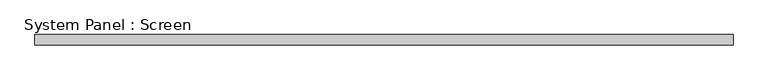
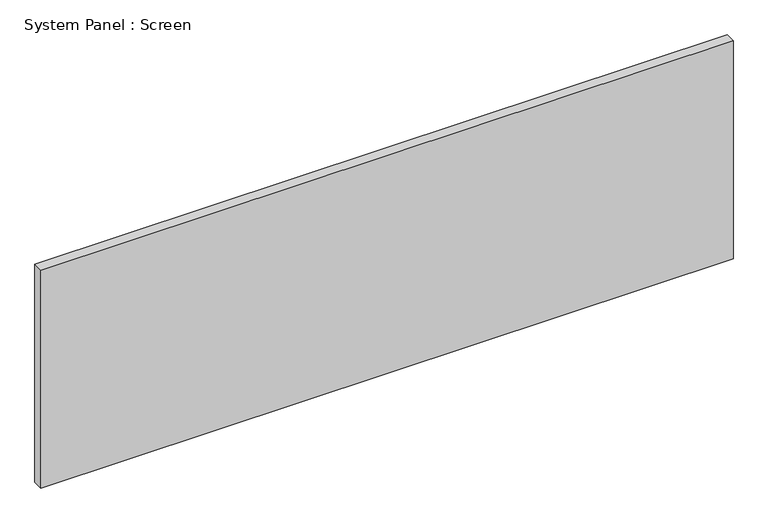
"""IFC4 building model written with IfcOpenShell, lengths in millimetres: plate geometry, System Panel : Screen."""

import ifcopenshell
import ifcopenshell.guid

model = None  # the IFC model being written
_history = None  # IfcOwnerHistory: only IFC2X3 demands one
_inside = {}  # id of a spatial element -> (the spatial element, [elements in it])
_under = {}  # id of a project, library or spatial element -> (it, [spatial elements below it])
_declared = {}  # id of a project -> (the project, [libraries it declares])
_typed = {}  # id of a type object -> (the type object, [elements of that type])
_made_of = {}  # id of a material, layer set ... -> (it, [elements and type objects made of it])


def new_model(schema):
    """Start an empty IFC model of exactly this schema.

    Asked for "IFC4X3", IfcOpenShell would pick the latest addendum, in which some entities
    have other attributes; the version numbers below select the first issue.
    IFC2X3 requires an IfcOwnerHistory on every rooted entity: one is made here for all.
    """
    global model, _history
    if schema == "IFC4X3":
        model = ifcopenshell.file(schema_version=(4, 3, 0, 0))
    else:
        model = ifcopenshell.file(schema=schema)
    _inside.clear()
    _under.clear()
    _declared.clear()
    _typed.clear()
    _made_of.clear()
    _history = None
    if model.schema == "IFC2X3":
        org = make("IfcOrganization", Name="unknown")
        user = make(
            "IfcPersonAndOrganization",
            ThePerson=make("IfcPerson", FamilyName="unknown"),
            TheOrganization=org,
        )
        app = make(
            "IfcApplication",
            ApplicationDeveloper=org,
            Version="unknown",
            ApplicationFullName="unknown",
            ApplicationIdentifier="unknown",
        )
        _history = make(
            "IfcOwnerHistory",
            OwningUser=user,
            OwningApplication=app,
            ChangeAction="ADDED",
            CreationDate=0,
        )
    return model


def make(cls, **values):
    """One entity of the class cls with the attributes given. An attribute that is None is left unset."""
    return model.create_entity(
        cls, **{name: value for name, value in values.items() if value is not None}
    )


def rooted(cls, **values):
    """An entity with a GlobalId (a new one), such as an element, a storey or a relation."""
    return make(cls, GlobalId=ifcopenshell.guid.new(), OwnerHistory=_history, **values)


def si_unit(unit_type, name, prefix=None):
    """IfcSIUnit, for example si_unit("LENGTHUNIT", "METRE", prefix="MILLI")."""
    return make("IfcSIUnit", UnitType=unit_type, Prefix=prefix, Name=name)


def assignment(units):
    """IfcUnitAssignment: the units of a project."""
    return None if units is None else make("IfcUnitAssignment", Units=units)


def point(xyz):
    """IfcCartesianPoint."""
    return None if xyz is None else make("IfcCartesianPoint", Coordinates=xyz)


def direction(xyz):
    """IfcDirection."""
    return None if xyz is None else make("IfcDirection", DirectionRatios=xyz)


def frame(location, z_axis=None, x_axis=None):
    """IfcAxis2Placement3D, a coordinate frame: its origin and axes. An axis left out is left unset."""
    return make(
        "IfcAxis2Placement3D",
        Location=point(location),
        Axis=direction(z_axis),
        RefDirection=direction(x_axis),
    )


def origin():
    """The frame at (0, 0, 0) with its axes left unset."""
    return frame((0.0, 0.0, 0.0))


def origin_with_axes():
    """The frame at (0, 0, 0) with the z axis (0, 0, 1) and the x axis (1, 0, 0) written out."""
    return frame((0.0, 0.0, 0.0), z_axis=(0.0, 0.0, 1.0), x_axis=(1.0, 0.0, 0.0))


def place(relative_to, where):
    """IfcLocalPlacement: puts the frame where relative to a parent placement (None: the world)."""
    return make(
        "IfcLocalPlacement", PlacementRelTo=relative_to, RelativePlacement=where
    )


def context(
    kind, dimensions, precision=None, world=None, true_north=None, identifier=None
):
    """IfcGeometricRepresentationContext, for example the 3D "Model" context."""
    return make(
        "IfcGeometricRepresentationContext",
        ContextIdentifier=identifier,
        ContextType=kind,
        CoordinateSpaceDimension=dimensions,
        Precision=precision,
        WorldCoordinateSystem=world,
        TrueNorth=true_north,
    )


def project(units=None, contexts=None):
    """IfcProject with its units and contexts."""
    return rooted(
        "IfcProject",
        Name="project",
        RepresentationContexts=contexts,
        UnitsInContext=assignment(units),
    )


def spatial(cls, under=None, at=None, **own):
    """A site, building, storey or space (cls), placed at a placement, below another one or the project."""
    s = rooted(cls, ObjectPlacement=at, **own)
    if under is not None:
        _under.setdefault(under.id(), (under, []))[1].append(s)
    return s


def polyline(points):
    """IfcPolyline through the points."""
    return make("IfcPolyline", Points=[point(p) for p in points])


def outline(outer, holes=None, kind="AREA"):
    """IfcArbitraryClosedProfileDef: a profile drawn as a closed curve; with holes, ...WithVoids."""
    if holes is None:
        return make("IfcArbitraryClosedProfileDef", ProfileType=kind, OuterCurve=outer)
    return make(
        "IfcArbitraryProfileDefWithVoids",
        ProfileType=kind,
        OuterCurve=outer,
        InnerCurves=holes,
    )


def extrude(swept, where, along, depth):
    """IfcExtrudedAreaSolid: the profile swept, set in the frame where, extruded along a direction by depth."""
    return make(
        "IfcExtrudedAreaSolid",
        SweptArea=swept,
        Position=where,
        ExtrudedDirection=direction(along),
        Depth=depth,
    )


def shape(context_of_items, identifier, shape_type, items):
    """IfcShapeRepresentation: the items that make up one representation, for example the "Body"."""
    return make(
        "IfcShapeRepresentation",
        ContextOfItems=context_of_items,
        RepresentationIdentifier=identifier,
        RepresentationType=shape_type,
        Items=items,
    )


def source(mapping_origin, context_of_items, identifier, shape_type, items):
    """IfcRepresentationMap: a shape defined once, which mapped items show again and again."""
    return make(
        "IfcRepresentationMap",
        MappingOrigin=mapping_origin,
        MappedRepresentation=shape(context_of_items, identifier, shape_type, items),
    )


def transform(
    local_origin,
    x_axis=None,
    y_axis=None,
    z_axis=None,
    scale=None,
    scale2=None,
    scale3=None,
    uniform=True,
):
    """IfcCartesianTransformationOperator3D, or its non-uniform kind. x_axis, y_axis, z_axis: its Axis1, 2, 3."""
    if uniform:
        return make(
            "IfcCartesianTransformationOperator3D",
            Axis1=direction(x_axis),
            Axis2=direction(y_axis),
            LocalOrigin=point(local_origin),
            Scale=scale,
            Axis3=direction(z_axis),
        )
    return make(
        "IfcCartesianTransformationOperator3DnonUniform",
        Axis1=direction(x_axis),
        Axis2=direction(y_axis),
        LocalOrigin=point(local_origin),
        Scale=scale,
        Axis3=direction(z_axis),
        Scale2=scale2,
        Scale3=scale3,
    )


def mapped(mapping_source, mapping_target):
    """IfcMappedItem: shows the shape of a source again, moved by a transform."""
    return make(
        "IfcMappedItem", MappingSource=mapping_source, MappingTarget=mapping_target
    )


def made_of(thing, what):
    """Note that an element or type object is made of a material, layer set ...; save() writes the relation."""
    if what is not None:
        _made_of.setdefault(what.id(), (what, []))[1].append(thing)
    return thing


def element(
    cls,
    number,
    at=None,
    inside=None,
    cuts=None,
    type_object=None,
    material=None,
    context=None,
    identifier="Body",
    shape_type=None,
    held_by="IfcProductDefinitionShape",
    body=None,
    shapes=None,
    **own,
):
    """One element of the class cls, such as IfcWall. Its Tag is "e" and its number.

    at: its placement. inside: the storey or other place that contains it. cuts: it is an
    opening in that element (IfcRelVoidsElement). A single representation is given by context,
    identifier, shape_type and body (its items); several are given by shapes. held_by: the class
    of the entity that holds the representations. save() writes the other relations.
    """
    e = rooted(cls, Tag="e%d" % number, ObjectPlacement=at, **own)
    if body is not None:
        shapes = [shape(context, identifier, shape_type, body)]
    if shapes is not None:
        e.Representation = make(held_by, Representations=shapes)
    if inside is not None:
        _inside.setdefault(inside.id(), (inside, []))[1].append(e)
    if cuts is not None:
        rooted(
            "IfcRelVoidsElement", RelatingBuildingElement=cuts, RelatedOpeningElement=e
        )
    if type_object is not None:
        _typed.setdefault(type_object.id(), (type_object, []))[1].append(e)
    return made_of(e, material)


def aggregate(whole, parts):
    """IfcRelAggregates: a whole, such as a stair, and the parts it consists of."""
    return rooted("IfcRelAggregates", RelatingObject=whole, RelatedObjects=parts)


def save(model, path):
    """Write the relations noted so far, then the file.

    IfcRelAggregates (storeys below a building ...), IfcRelContainedInSpatialStructure (elements
    in a storey), IfcRelDefinesByType, IfcRelAssociatesMaterial and IfcRelDeclares: one each for
    every whole, place, type object, material and project.
    """
    for whole, parts in _under.values():
        aggregate(whole, parts)
    for where, things in _inside.values():
        rooted(
            "IfcRelContainedInSpatialStructure",
            RelatedElements=things,
            RelatingStructure=where,
        )
    for kind, things in _typed.values():
        rooted("IfcRelDefinesByType", RelatedObjects=things, RelatingType=kind)
    for what, things in _made_of.values():
        rooted("IfcRelAssociatesMaterial", RelatedObjects=things, RelatingMaterial=what)
    for by, libraries in _declared.values():
        rooted("IfcRelDeclares", RelatingContext=by, RelatedDefinitions=libraries)
    model.write(path)


def system_panel_screen_4a7d9bef(model_context):
    return source(origin(), model_context, "Body", "SweptSolid", [
        extrude(outline(polyline([(863.84765, -12.7), (-863.84765, -12.7), (-863.84765, 12.7), (863.84765, 12.7), (863.84765, -12.7)])), origin_with_axes(), (0.0, 0.0, 1.0), 575.31),
    ])


if __name__ == "__main__":
    model = new_model("IFC4")
    model_context = context("Model", 3, world=origin())
    ifc_project = project(units=[si_unit("LENGTHUNIT", "METRE", prefix="MILLI")], contexts=[model_context])
    site = spatial("IfcSite", under=ifc_project)
    building = spatial("IfcBuilding", under=site)
    placement = place(None, origin())
    system_panel_screen_shape = system_panel_screen_4a7d9bef(model_context)
    element("IfcPlate", 1, ObjectType="System Panel : Screen", at=placement, inside=building, context=model_context, shape_type="MappedRepresentation", body=[
        mapped(system_panel_screen_shape, transform((0.0, 0.0, 0.0), x_axis=(1.0, 0.0, 0.0), y_axis=(0.0, 1.0, 0.0), z_axis=(0.0, 0.0, 1.0))),
    ])
    save(model, "model.ifc")
